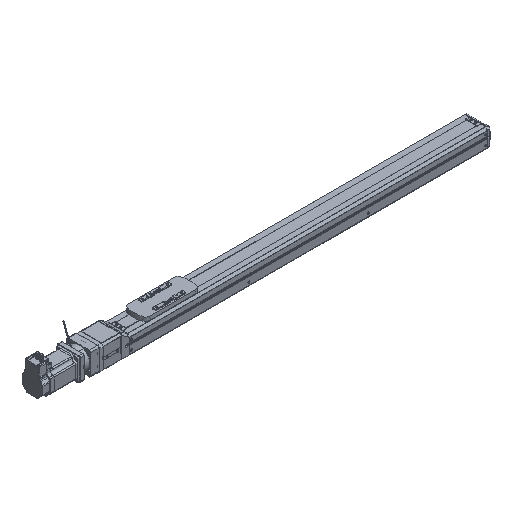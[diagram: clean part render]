
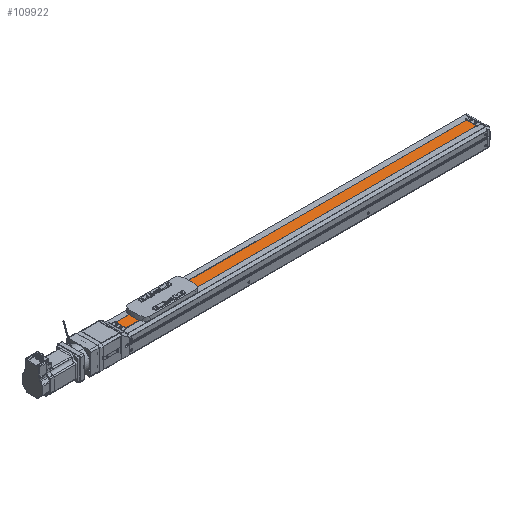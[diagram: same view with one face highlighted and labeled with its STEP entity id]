
A CAD part, isometric view. The second image highlights one B-rep face of the part: STEP entity #109922.
In plain terms, the highlighted planar face has unit normal (0, 0, 1) as drawn and (0, 1, 0) by its records, which use the part's own axes.
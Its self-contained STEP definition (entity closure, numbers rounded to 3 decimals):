
#109922 = ADVANCED_FACE('',(#109923),#109937,.T.);
#109923 = FACE_BOUND('',#109924,.T.);
#109924 = EDGE_LOOP('',(#109925,#109960,#109988,#110016));
#109925 = ORIENTED_EDGE('',*,*,#109926,.F.);
#109926 = EDGE_CURVE('',#109927,#109929,#109931,.T.);
#109927 = VERTEX_POINT('',#109928);
#109928 = CARTESIAN_POINT('',(-930.5,18.,-13.));
#109929 = VERTEX_POINT('',#109930);
#109930 = CARTESIAN_POINT('',(-21.5,18.,-13.));
#109931 = SURFACE_CURVE('',#109932,(#109936,#109948),.PCURVE_S1.);
#109932 = LINE('',#109933,#109934);
#109933 = CARTESIAN_POINT('',(-930.5,18.,-13.));
#109934 = VECTOR('',#109935,1.);
#109935 = DIRECTION('',(1.,0.,0.));
#109936 = PCURVE('',#109937,#109942);
#109937 = PLANE('',#109938);
#109938 = AXIS2_PLACEMENT_3D('',#109939,#109940,#109941);
#109939 = CARTESIAN_POINT('',(-940.5,18.,-26.583));
#109940 = DIRECTION('',(0.,1.,0.));
#109941 = DIRECTION('',(0.,-0.,1.));
#109942 = DEFINITIONAL_REPRESENTATION('',(#109943),#109947);
#109943 = LINE('',#109944,#109945);
#109944 = CARTESIAN_POINT('',(13.583,10.));
#109945 = VECTOR('',#109946,1.);
#109946 = DIRECTION('',(0.,1.));
#109947 = ( GEOMETRIC_REPRESENTATION_CONTEXT(2) 
PARAMETRIC_REPRESENTATION_CONTEXT() REPRESENTATION_CONTEXT('2D SPACE',''
  ) );
#109948 = PCURVE('',#109949,#109954);
#109949 = PLANE('',#109950);
#109950 = AXIS2_PLACEMENT_3D('',#109951,#109952,#109953);
#109951 = CARTESIAN_POINT('',(-930.5,18.,-13.));
#109952 = DIRECTION('',(0.,0.,1.));
#109953 = DIRECTION('',(1.,0.,-0.));
#109954 = DEFINITIONAL_REPRESENTATION('',(#109955),#109959);
#109955 = LINE('',#109956,#109957);
#109956 = CARTESIAN_POINT('',(0.,0.));
#109957 = VECTOR('',#109958,1.);
#109958 = DIRECTION('',(1.,0.));
#109959 = ( GEOMETRIC_REPRESENTATION_CONTEXT(2) 
PARAMETRIC_REPRESENTATION_CONTEXT() REPRESENTATION_CONTEXT('2D SPACE',''
  ) );
#109960 = ORIENTED_EDGE('',*,*,#109961,.T.);
#109961 = EDGE_CURVE('',#109927,#109962,#109964,.T.);
#109962 = VERTEX_POINT('',#109963);
#109963 = CARTESIAN_POINT('',(-930.5,18.,13.));
#109964 = SURFACE_CURVE('',#109965,(#109969,#109976),.PCURVE_S1.);
#109965 = LINE('',#109966,#109967);
#109966 = CARTESIAN_POINT('',(-930.5,18.,-26.583));
#109967 = VECTOR('',#109968,1.);
#109968 = DIRECTION('',(0.,0.,1.));
#109969 = PCURVE('',#109937,#109970);
#109970 = DEFINITIONAL_REPRESENTATION('',(#109971),#109975);
#109971 = LINE('',#109972,#109973);
#109972 = CARTESIAN_POINT('',(0.,10.));
#109973 = VECTOR('',#109974,1.);
#109974 = DIRECTION('',(1.,0.));
#109975 = ( GEOMETRIC_REPRESENTATION_CONTEXT(2) 
PARAMETRIC_REPRESENTATION_CONTEXT() REPRESENTATION_CONTEXT('2D SPACE',''
  ) );
#109976 = PCURVE('',#109977,#109982);
#109977 = PLANE('',#109978);
#109978 = AXIS2_PLACEMENT_3D('',#109979,#109980,#109981);
#109979 = CARTESIAN_POINT('',(-930.5,0.,0.));
#109980 = DIRECTION('',(1.,0.,0.));
#109981 = DIRECTION('',(0.,0.,-1.));
#109982 = DEFINITIONAL_REPRESENTATION('',(#109983),#109987);
#109983 = LINE('',#109984,#109985);
#109984 = CARTESIAN_POINT('',(26.583,18.));
#109985 = VECTOR('',#109986,1.);
#109986 = DIRECTION('',(-1.,0.));
#109987 = ( GEOMETRIC_REPRESENTATION_CONTEXT(2) 
PARAMETRIC_REPRESENTATION_CONTEXT() REPRESENTATION_CONTEXT('2D SPACE',''
  ) );
#109988 = ORIENTED_EDGE('',*,*,#109989,.T.);
#109989 = EDGE_CURVE('',#109962,#109990,#109992,.T.);
#109990 = VERTEX_POINT('',#109991);
#109991 = CARTESIAN_POINT('',(-21.5,18.,13.));
#109992 = SURFACE_CURVE('',#109993,(#109997,#110004),.PCURVE_S1.);
#109993 = LINE('',#109994,#109995);
#109994 = CARTESIAN_POINT('',(-930.5,18.,13.));
#109995 = VECTOR('',#109996,1.);
#109996 = DIRECTION('',(1.,0.,0.));
#109997 = PCURVE('',#109937,#109998);
#109998 = DEFINITIONAL_REPRESENTATION('',(#109999),#110003);
#109999 = LINE('',#110000,#110001);
#110000 = CARTESIAN_POINT('',(39.583,10.));
#110001 = VECTOR('',#110002,1.);
#110002 = DIRECTION('',(0.,1.));
#110003 = ( GEOMETRIC_REPRESENTATION_CONTEXT(2) 
PARAMETRIC_REPRESENTATION_CONTEXT() REPRESENTATION_CONTEXT('2D SPACE',''
  ) );
#110004 = PCURVE('',#110005,#110010);
#110005 = PLANE('',#110006);
#110006 = AXIS2_PLACEMENT_3D('',#110007,#110008,#110009);
#110007 = CARTESIAN_POINT('',(-930.5,15.,13.));
#110008 = DIRECTION('',(0.,0.,-1.));
#110009 = DIRECTION('',(-1.,0.,0.));
#110010 = DEFINITIONAL_REPRESENTATION('',(#110011),#110015);
#110011 = LINE('',#110012,#110013);
#110012 = CARTESIAN_POINT('',(0.,3.));
#110013 = VECTOR('',#110014,1.);
#110014 = DIRECTION('',(-1.,0.));
#110015 = ( GEOMETRIC_REPRESENTATION_CONTEXT(2) 
PARAMETRIC_REPRESENTATION_CONTEXT() REPRESENTATION_CONTEXT('2D SPACE',''
  ) );
#110016 = ORIENTED_EDGE('',*,*,#110017,.T.);
#110017 = EDGE_CURVE('',#109990,#109929,#110018,.T.);
#110018 = SURFACE_CURVE('',#110019,(#110023,#110030),.PCURVE_S1.);
#110019 = LINE('',#110020,#110021);
#110020 = CARTESIAN_POINT('',(-21.5,18.,-26.583));
#110021 = VECTOR('',#110022,1.);
#110022 = DIRECTION('',(0.,0.,-1.));
#110023 = PCURVE('',#109937,#110024);
#110024 = DEFINITIONAL_REPRESENTATION('',(#110025),#110029);
#110025 = LINE('',#110026,#110027);
#110026 = CARTESIAN_POINT('',(0.,919.));
#110027 = VECTOR('',#110028,1.);
#110028 = DIRECTION('',(-1.,0.));
#110029 = ( GEOMETRIC_REPRESENTATION_CONTEXT(2) 
PARAMETRIC_REPRESENTATION_CONTEXT() REPRESENTATION_CONTEXT('2D SPACE',''
  ) );
#110030 = PCURVE('',#110031,#110036);
#110031 = PLANE('',#110032);
#110032 = AXIS2_PLACEMENT_3D('',#110033,#110034,#110035);
#110033 = CARTESIAN_POINT('',(-21.5,0.,0.));
#110034 = DIRECTION('',(1.,0.,0.));
#110035 = DIRECTION('',(0.,0.,-1.));
#110036 = DEFINITIONAL_REPRESENTATION('',(#110037),#110041);
#110037 = LINE('',#110038,#110039);
#110038 = CARTESIAN_POINT('',(26.583,18.));
#110039 = VECTOR('',#110040,1.);
#110040 = DIRECTION('',(1.,0.));
#110041 = ( GEOMETRIC_REPRESENTATION_CONTEXT(2) 
PARAMETRIC_REPRESENTATION_CONTEXT() REPRESENTATION_CONTEXT('2D SPACE',''
  ) );
